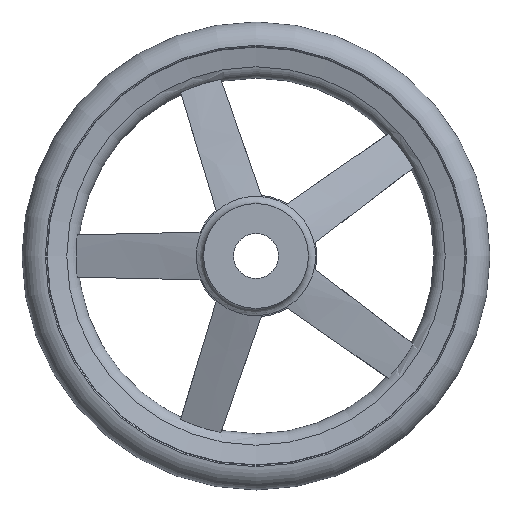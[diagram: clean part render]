
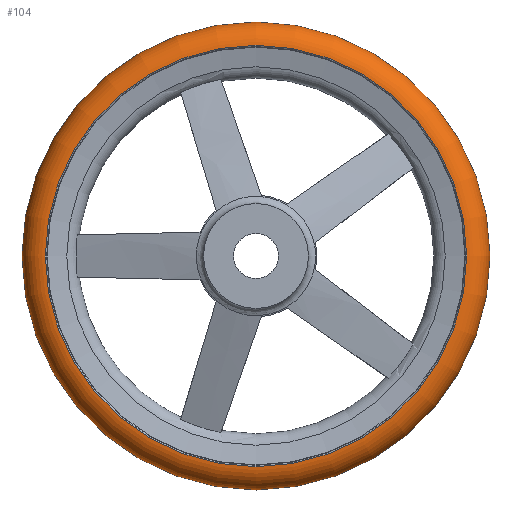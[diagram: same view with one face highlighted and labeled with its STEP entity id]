
A CAD part, left-side view. The second image highlights one B-rep face of the part: STEP entity #104.
In plain terms, the highlighted toroidal (fillet/blend) face has major radius 112 mm and minor radius 13 mm.
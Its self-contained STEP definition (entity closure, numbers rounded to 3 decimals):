
#104 = ADVANCED_FACE( '', ( #187, #188, #189 ), #190, .T. );
#187 = FACE_BOUND( '', #290, .T. );
#188 = FACE_OUTER_BOUND( '', #291, .T. );
#189 = FACE_OUTER_BOUND( '', #292, .T. );
#190 = TOROIDAL_SURFACE( '', #293, 112., 13. );
#290 = VERTEX_LOOP( '', #574 );
#291 = EDGE_LOOP( '', ( #575 ) );
#292 = EDGE_LOOP( '', ( #576 ) );
#293 = AXIS2_PLACEMENT_3D( '', #577, #578, #579 );
#574 = VERTEX_POINT( '', #711 );
#575 = ORIENTED_EDGE( '', *, *, #712, .T. );
#576 = ORIENTED_EDGE( '', *, *, #710, .F. );
#577 = CARTESIAN_POINT( '', ( 53., 0., 0. ) );
#578 = DIRECTION( '', ( -1., 0., 0. ) );
#579 = DIRECTION( '', ( 0., -1., 0. ) );
#710 = EDGE_CURVE( '', #864, #864, #865, .T. );
#711 = CARTESIAN_POINT( '', ( 53., -125., 0. ) );
#712 = EDGE_CURVE( '', #866, #866, #867, .T. );
#864 = VERTEX_POINT( '', #1409 );
#865 = CIRCLE( '', #1410, 112.542 );
#866 = VERTEX_POINT( '', #1411 );
#867 = CIRCLE( '', #1412, 112.542 );
#1409 = CARTESIAN_POINT( '', ( 40.011, -112.542, 0. ) );
#1410 = AXIS2_PLACEMENT_3D( '', #1540, #1541, #1542 );
#1411 = CARTESIAN_POINT( '', ( 65.989, -112.542, 0. ) );
#1412 = AXIS2_PLACEMENT_3D( '', #1543, #1544, #1545 );
#1540 = CARTESIAN_POINT( '', ( 40.011, 0., 0. ) );
#1541 = DIRECTION( '', ( -1., 0., 0. ) );
#1542 = DIRECTION( '', ( 0., -1., 0. ) );
#1543 = CARTESIAN_POINT( '', ( 65.989, 0., 0. ) );
#1544 = DIRECTION( '', ( -1., 0., 0. ) );
#1545 = DIRECTION( '', ( 0., -1., 0. ) );
